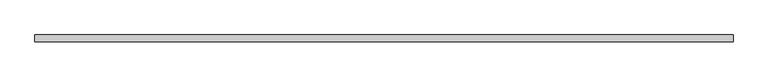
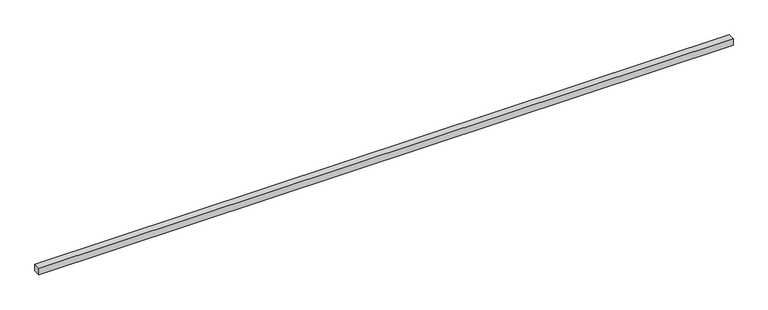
"""IFC4 building model written with IfcOpenShell, lengths in millimetres: light fixture geometry, AI_Luminaire_CONCEPT S_Linéaire : CONCEPTION S."""

from ifc_helpers import new_model, si_unit, frame, origin, place, context, project, spatial, polyline, outline, extrude, source, transform, mapped, element, save


def light_fixture_1af5f06e(model_context):
    return source(origin(), model_context, "Body", "SweptSolid", [
        extrude(outline(polyline([(2816.8484308, 27.5), (2816.8484308, -27.5), (-2816.8484308, -27.5), (-2816.8484308, 27.5), (2816.8484308, 27.5)])), frame((0.0, 0.0, -56.0), z_axis=(0.0, 0.0, 1.0), x_axis=(1.0, 0.0, 0.0)), (0.0, 0.0, 1.0), 56.0),
    ])


if __name__ == "__main__":
    model = new_model("IFC4")
    model_context = context("Model", 3, world=origin())
    ifc_project = project(units=[si_unit("LENGTHUNIT", "METRE", prefix="MILLI")], contexts=[model_context])
    site = spatial("IfcSite", under=ifc_project)
    building = spatial("IfcBuilding", under=site)
    placement = place(None, origin())
    light_fixture_shape = light_fixture_1af5f06e(model_context)
    element("IfcLightFixture", 1, ObjectType="AI_Luminaire_CONCEPT S_Linéaire : CONCEPTION S", at=placement, inside=building, context=model_context, shape_type="MappedRepresentation", body=[
        mapped(light_fixture_shape, transform((0.0, 0.0, 0.0), x_axis=(1.0, 0.0, 0.0), y_axis=(0.0, 1.0, 0.0), z_axis=(0.0, 0.0, 1.0))),
    ])
    save(model, "model.ifc")
